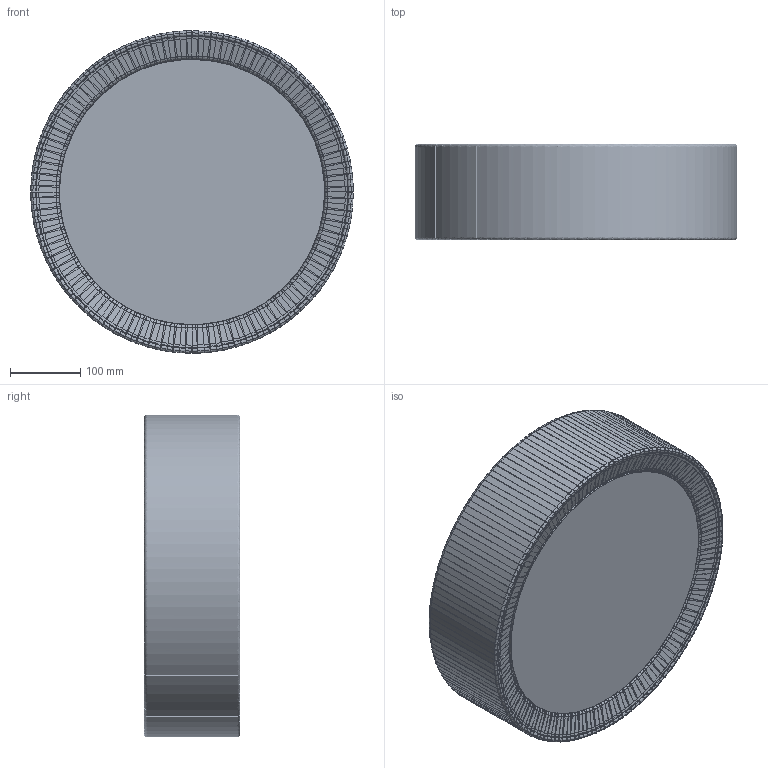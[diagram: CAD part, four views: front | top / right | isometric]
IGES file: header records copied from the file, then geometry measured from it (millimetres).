
Start section: SolidWorks IGES file using analytic representation for surfaces
Global section: file name: E:\3D lampy\Alehandro\Alehandro_5346\Alehandro450.IGS; native system: SolidWorks 2016; preprocessor: SolidWorks 2016; author: Asia; date: 170428.152519; units: millimetre
Bounding box: 458.44 x 136.71 x 458.44 mm (x, y, z)
Surface area: 1201595.1 mm2 (no closed solid volume)
Topology: 0 solids, 0 shells, 5296 faces, 33808 edges, 33808 vertices
Faces by surface type: bspline 4734, revolution 562
